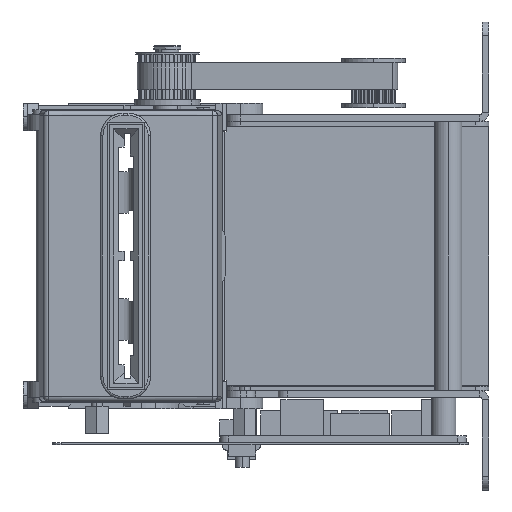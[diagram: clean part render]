
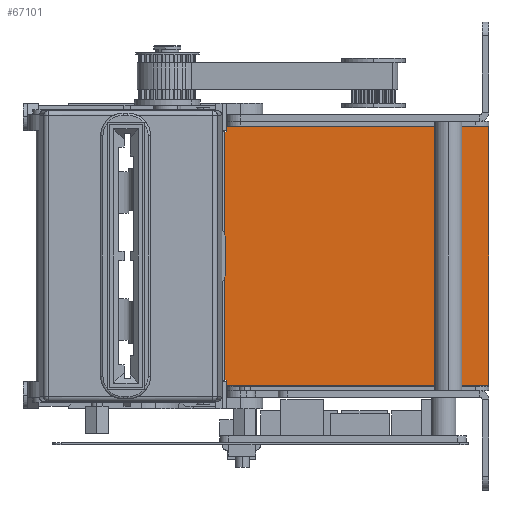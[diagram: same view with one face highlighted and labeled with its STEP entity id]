
A CAD part, left-side view. The second image highlights one B-rep face of the part: STEP entity #67101.
In plain terms, the highlighted planar face has unit normal (1, 0, 0).
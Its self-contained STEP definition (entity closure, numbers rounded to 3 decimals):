
#66314=DIRECTION('',(0.,1.,0.));
#66315=VECTOR('',#66314,0.369);
#66316=CARTESIAN_POINT('',(52.5,-22.,27.5));
#66317=LINE('',#66316,#66315);
#66318=DIRECTION('',(0.,0.,1.));
#66319=VECTOR('',#66318,1.05);
#66320=CARTESIAN_POINT('',(52.5,-22.,27.5));
#66321=LINE('',#66320,#66319);
#66344=DIRECTION('',(0.,-1.,0.));
#66345=VECTOR('',#66344,58.);
#66346=CARTESIAN_POINT('',(52.5,-22.,28.55));
#66347=LINE('',#66346,#66345);
#66510=DIRECTION('',(0.,0.,1.));
#66511=VECTOR('',#66510,57.1);
#66512=CARTESIAN_POINT('',(52.5,-80.,-28.55));
#66513=LINE('',#66512,#66511);
#66558=DIRECTION('',(0.,1.,0.));
#66559=VECTOR('',#66558,58.);
#66560=CARTESIAN_POINT('',(52.5,-80.,-28.55));
#66561=LINE('',#66560,#66559);
#66686=DIRECTION('',(0.,0.,-1.));
#66687=VECTOR('',#66686,1.05);
#66688=CARTESIAN_POINT('',(52.5,-22.,-27.5));
#66689=LINE('',#66688,#66687);
#66694=DIRECTION('',(0.,1.,0.));
#66695=VECTOR('',#66694,0.369);
#66696=CARTESIAN_POINT('',(52.5,-22.,-27.5));
#66697=LINE('',#66696,#66695);
#66884=DIRECTION('',(0.,0.,1.));
#66885=VECTOR('',#66884,55.);
#66886=CARTESIAN_POINT('',(52.5,-21.631,-27.5));
#66887=LINE('',#66886,#66885);
#66910=CARTESIAN_POINT('',(52.5,-22.,27.5));
#66911=CARTESIAN_POINT('',(52.5,-21.631,27.5));
#66912=VERTEX_POINT('',#66910);
#66913=VERTEX_POINT('',#66911);
#66914=CARTESIAN_POINT('',(52.5,-21.631,-27.5));
#66915=VERTEX_POINT('',#66914);
#66916=CARTESIAN_POINT('',(52.5,-22.,-27.5));
#66917=VERTEX_POINT('',#66916);
#66918=CARTESIAN_POINT('',(52.5,-22.,-28.55));
#66919=VERTEX_POINT('',#66918);
#66920=CARTESIAN_POINT('',(52.5,-80.,-28.55));
#66921=VERTEX_POINT('',#66920);
#66922=CARTESIAN_POINT('',(52.5,-80.,28.55));
#66923=VERTEX_POINT('',#66922);
#66924=CARTESIAN_POINT('',(52.5,-22.,28.55));
#66925=VERTEX_POINT('',#66924);
#67078=CARTESIAN_POINT('',(52.5,-50.815,0.));
#67079=DIRECTION('',(1.,0.,0.));
#67080=DIRECTION('',(0.,0.,-1.));
#67081=AXIS2_PLACEMENT_3D('',#67078,#67079,#67080);
#67082=PLANE('',#67081);
#67084=ORIENTED_EDGE('',*,*,#67083,.T.);
#67086=ORIENTED_EDGE('',*,*,#67085,.F.);
#67088=ORIENTED_EDGE('',*,*,#67087,.F.);
#67090=ORIENTED_EDGE('',*,*,#67089,.T.);
#67092=ORIENTED_EDGE('',*,*,#67091,.F.);
#67094=ORIENTED_EDGE('',*,*,#67093,.T.);
#67096=ORIENTED_EDGE('',*,*,#67095,.F.);
#67098=ORIENTED_EDGE('',*,*,#67097,.F.);
#67099=EDGE_LOOP('',(#67084,#67086,#67088,#67090,#67092,#67094,#67096,#67098));
#67100=FACE_OUTER_BOUND('',#67099,.F.);
#67101=ADVANCED_FACE('',(#67100),#67082,.T.);
#67083=EDGE_CURVE('',#66912,#66913,#66317,.T.);
#67085=EDGE_CURVE('',#66915,#66913,#66887,.T.);
#67087=EDGE_CURVE('',#66917,#66915,#66697,.T.);
#67089=EDGE_CURVE('',#66917,#66919,#66689,.T.);
#67091=EDGE_CURVE('',#66921,#66919,#66561,.T.);
#67093=EDGE_CURVE('',#66921,#66923,#66513,.T.);
#67095=EDGE_CURVE('',#66925,#66923,#66347,.T.);
#67097=EDGE_CURVE('',#66912,#66925,#66321,.T.);
